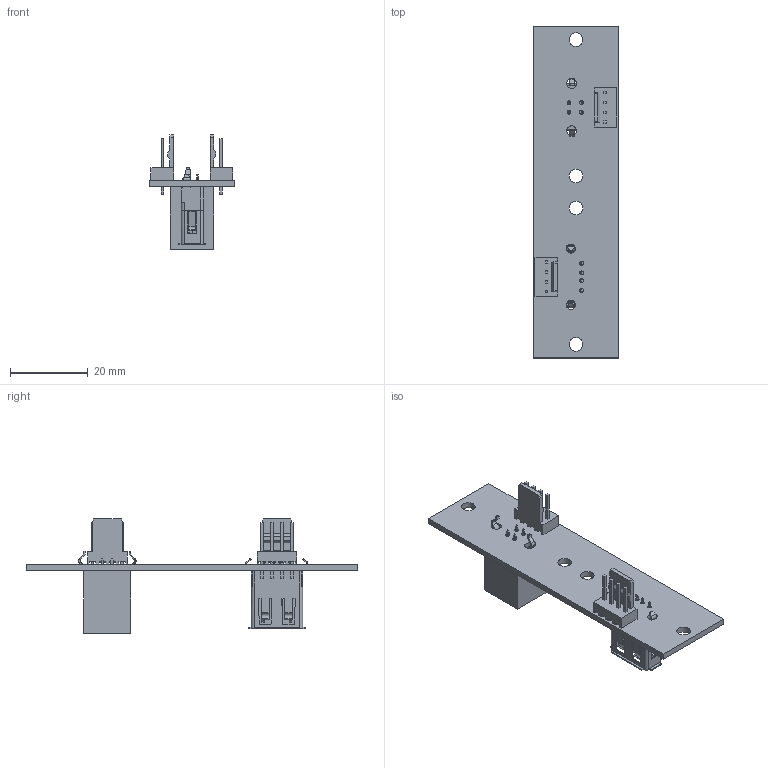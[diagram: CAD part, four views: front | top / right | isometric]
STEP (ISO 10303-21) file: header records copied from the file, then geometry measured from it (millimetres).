
FILE_DESCRIPTION(('Open CASCADE Model'),'2;1');
FILE_NAME('Open CASCADE Shape Model','2013-03-27T13:06:37',('Author'),( 'Open CASCADE'),'Open CASCADE STEP processor 6.2','Open CASCADE 6.2' ,'Unknown');
FILE_SCHEMA(('AUTOMOTIVE_DESIGN { 1 0 10303 214 1 1 1 1 }'));
Length unit declared in the file: millimetre
Products named in the file (11): PCB; Board; J2; 6410-4; Open CASCADE STEP translator 6.2 3.2.1.1; Open CASCADE STEP translator 6.2 3.2.1.2; J1; USB-B-S-X-X-VT; J4; J3; USB-A-S-X-X-VT-X
Assembly tree (11 placements, depth 4):
  PCB
    Board
    J2
      6410-4
        Open CASCADE STEP translator 6.2 3.2.1.1
        Open CASCADE STEP translator 6.2 3.2.1.2
    J1
      USB-B-S-X-X-VT
    J4
      6410-4
        Open CASCADE STEP translator 6.2 3.2.1.1
        Open CASCADE STEP translator 6.2 3.2.1.2
    J3
      USB-A-S-X-X-VT-X
Bounding box: 22 x 85.18 x 29.46 mm (x, y, z)
Volume: 5792.1 mm3; surface area: 8074.1 mm2
Topology: 5 solids, 5 shells, 589 faces, 1635 edges, 1096 vertices
Faces by surface type: plane 490, cylinder 97, cone 2
Full cylindrical faces by diameter (mm): 1 x16, 2.3 x2, 2.5 x2, 3.5 x4
Entity records: 36201 total; most frequent: CARTESIAN_POINT 8900, DIRECTION 4846, LINE 3438, VECTOR 3438, ORIENTED_EDGE 2764, PCURVE 2764, DEFINITIONAL_REPRESENTATION 2764, EDGE_CURVE 1382
